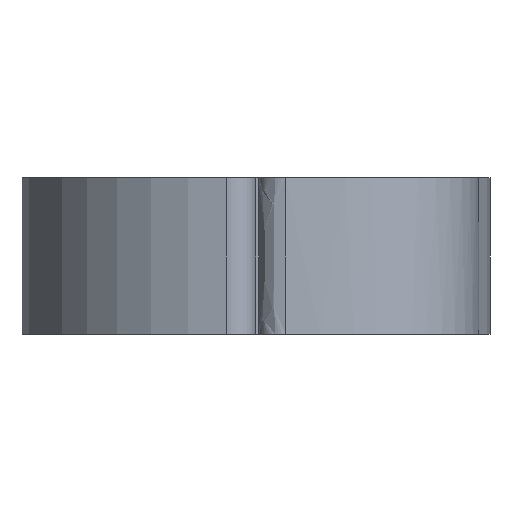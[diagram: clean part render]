
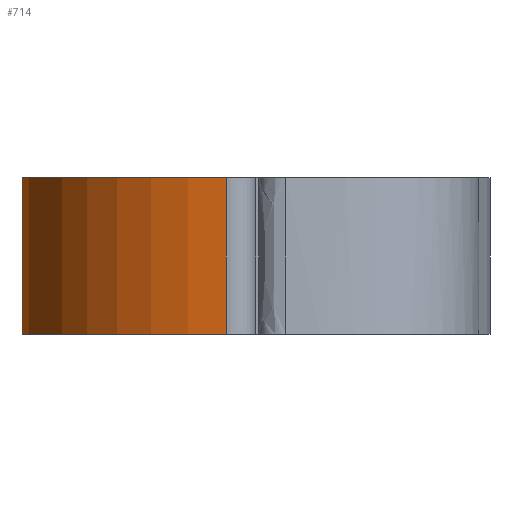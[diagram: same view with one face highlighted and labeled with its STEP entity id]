
A CAD part, front view. The second image highlights one B-rep face of the part: STEP entity #714.
In plain terms, the highlighted cylindrical face has radius 9 mm (diameter 18 mm), a partial arc.
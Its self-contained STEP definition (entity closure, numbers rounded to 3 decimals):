
#24=CYLINDRICAL_SURFACE('',#780,9.);
#44=CIRCLE('',#752,9.);
#56=CIRCLE('',#781,9.);
#73=LINE('',#1328,#110);
#94=LINE('',#1611,#131);
#110=VECTOR('',#847,10.);
#131=VECTOR('',#906,10.);
#174=FACE_OUTER_BOUND('',#213,.T.);
#213=EDGE_LOOP('',(#593,#594,#595,#596));
#293=VERTEX_POINT('',#1117);
#294=VERTEX_POINT('',#1119);
#313=VERTEX_POINT('',#1326);
#335=VERTEX_POINT('',#1610);
#368=EDGE_CURVE('',#294,#293,#44,.T.);
#393=EDGE_CURVE('',#313,#293,#73,.T.);
#434=EDGE_CURVE('',#294,#335,#94,.T.);
#437=EDGE_CURVE('',#335,#313,#56,.T.);
#593=ORIENTED_EDGE('',*,*,#393,.F.);
#594=ORIENTED_EDGE('',*,*,#437,.F.);
#595=ORIENTED_EDGE('',*,*,#434,.F.);
#596=ORIENTED_EDGE('',*,*,#368,.T.);
#714=ADVANCED_FACE('',(#174),#24,.T.);
#752=AXIS2_PLACEMENT_3D('',#1120,#827,#828);
#780=AXIS2_PLACEMENT_3D('',#1615,#910,#911);
#781=AXIS2_PLACEMENT_3D('',#1616,#912,#913);
#827=DIRECTION('center_axis',(0.,0.,1.));
#828=DIRECTION('ref_axis',(-0.788,0.615,0.));
#847=DIRECTION('',(0.,0.,-1.));
#906=DIRECTION('',(0.,0.,1.));
#910=DIRECTION('center_axis',(0.,0.,1.));
#911=DIRECTION('ref_axis',(-0.788,0.615,0.));
#912=DIRECTION('center_axis',(0.,0.,1.));
#913=DIRECTION('ref_axis',(-0.788,0.615,0.));
#1117=CARTESIAN_POINT('',(-1.125,-16.929,0.));
#1119=CARTESIAN_POINT('',(-8.249,-4.4,0.));
#1120=CARTESIAN_POINT('Origin',(0.,-8.,0.));
#1326=CARTESIAN_POINT('',(-1.125,-16.929,6.));
#1328=CARTESIAN_POINT('',(-1.125,-16.929,0.));
#1610=CARTESIAN_POINT('',(-8.249,-4.4,6.));
#1611=CARTESIAN_POINT('',(-8.249,-4.4,0.));
#1615=CARTESIAN_POINT('Origin',(0.,-8.,0.));
#1616=CARTESIAN_POINT('Origin',(0.,-8.,6.));
